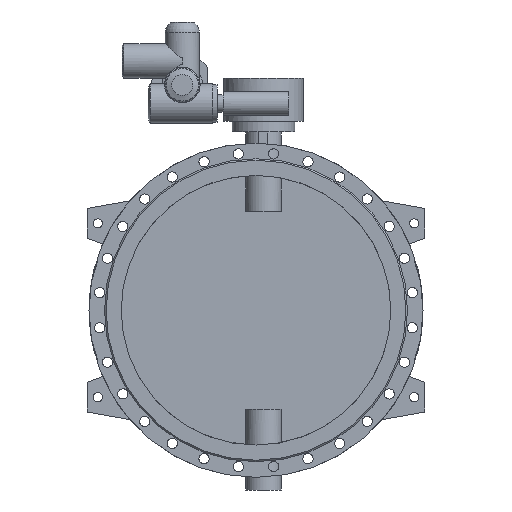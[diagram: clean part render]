
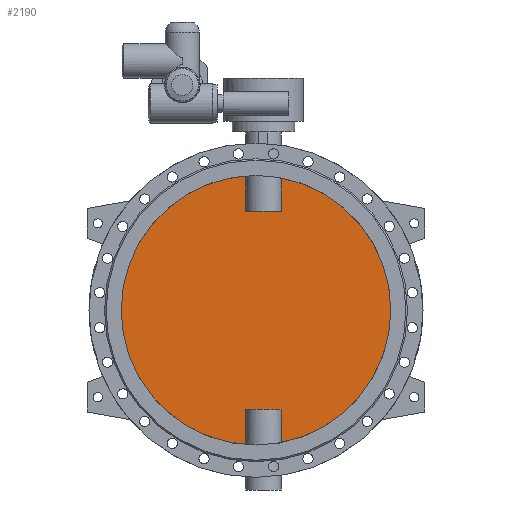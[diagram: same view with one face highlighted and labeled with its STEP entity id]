
A CAD part, front view. The second image highlights one B-rep face of the part: STEP entity #2190.
In plain terms, the highlighted planar face has unit normal (0, -1, 0).
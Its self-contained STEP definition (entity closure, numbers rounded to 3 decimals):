
#2190=ADVANCED_FACE('',(#4459),#4461,.F.);
#4459=FACE_BOUND('',#4460,.T.);
#4460=EDGE_LOOP('',(#5455,#5456,#5457,#5458,#5459,#5460,#5461,#5462));
#4461=PLANE('',#4462);
#4462=AXIS2_PLACEMENT_3D('',#4463,#4464,#4465);
#4463=CARTESIAN_POINT('',(0.,-5.,0.));
#4464=DIRECTION('',(0.,1.,0.));
#4465=DIRECTION('',(1.,0.,0.));
#5455=ORIENTED_EDGE('',*,*,#5954,.T.);
#5456=ORIENTED_EDGE('',*,*,#5959,.T.);
#5457=ORIENTED_EDGE('',*,*,#5960,.T.);
#5458=ORIENTED_EDGE('',*,*,#5961,.T.);
#5459=ORIENTED_EDGE('',*,*,#5956,.T.);
#5460=ORIENTED_EDGE('',*,*,#5962,.T.);
#5461=ORIENTED_EDGE('',*,*,#5963,.T.);
#5462=ORIENTED_EDGE('',*,*,#5964,.T.);
#5954=EDGE_CURVE('',#6835,#6836,#6837,.F.);
#5956=EDGE_CURVE('',#6840,#6838,#6841,.F.);
#5959=EDGE_CURVE('',#6836,#6845,#6846,.T.);
#5960=EDGE_CURVE('',#6845,#6847,#6848,.F.);
#5961=EDGE_CURVE('',#6847,#6840,#6849,.F.);
#5962=EDGE_CURVE('',#6838,#6850,#6851,.F.);
#5963=EDGE_CURVE('',#6850,#6852,#6853,.F.);
#5964=EDGE_CURVE('',#6852,#6835,#6854,.T.);
#6835=VERTEX_POINT('',#10965);
#6836=VERTEX_POINT('',#10966);
#6837=CIRCLE('',#10967,450.);
#6838=VERTEX_POINT('',#10971);
#6840=VERTEX_POINT('',#11061);
#6841=CIRCLE('',#11062,450.);
#6845=VERTEX_POINT('',#11177);
#6846=LINE('',#11178,#11179);
#6847=VERTEX_POINT('',#11181);
#6848=LINE('',#11182,#11183);
#6849=LINE('',#11185,#11186);
#6850=VERTEX_POINT('',#11188);
#6851=LINE('',#11189,#11190);
#6852=VERTEX_POINT('',#11192);
#6853=LINE('',#11193,#11194);
#6854=LINE('',#11196,#11197);
#10965=CARTESIAN_POINT('',(84.791,-5.,-441.939));
#10966=CARTESIAN_POINT('',(84.791,-5.,441.939));
#10967=AXIS2_PLACEMENT_3D('',#10968,#10969,#10970);
#10968=CARTESIAN_POINT('',(0.,-5.,0.));
#10969=DIRECTION('',(0.,1.,0.));
#10970=DIRECTION('',(0.188,0.,0.982));
#10971=CARTESIAN_POINT('',(-34.791,-5.,-448.653));
#11061=CARTESIAN_POINT('',(-34.791,-5.,448.653));
#11062=AXIS2_PLACEMENT_3D('',#11063,#11064,#11065);
#11063=CARTESIAN_POINT('',(0.,-5.,0.));
#11064=DIRECTION('',(0.,1.,0.));
#11065=DIRECTION('',(-0.077,0.,-0.997));
#11177=CARTESIAN_POINT('',(84.791,-5.,330.));
#11178=CARTESIAN_POINT('',(84.791,-5.,441.939));
#11179=VECTOR('',#11180,1.);
#11180=DIRECTION('',(0.,0.,-1.));
#11181=CARTESIAN_POINT('',(-34.791,-5.,330.));
#11182=CARTESIAN_POINT('',(-34.791,-5.,330.));
#11183=VECTOR('',#11184,1.);
#11184=DIRECTION('',(1.,0.,0.));
#11185=CARTESIAN_POINT('',(-34.791,-5.,448.653));
#11186=VECTOR('',#11187,1.);
#11187=DIRECTION('',(0.,0.,-1.));
#11188=CARTESIAN_POINT('',(-34.791,-5.,-330.));
#11189=CARTESIAN_POINT('',(-34.791,-5.,-330.));
#11190=VECTOR('',#11191,1.);
#11191=DIRECTION('',(0.,0.,-1.));
#11192=CARTESIAN_POINT('',(84.791,-5.,-330.));
#11193=CARTESIAN_POINT('',(84.791,-5.,-330.));
#11194=VECTOR('',#11195,1.);
#11195=DIRECTION('',(-1.,0.,0.));
#11196=CARTESIAN_POINT('',(84.791,-5.,-330.));
#11197=VECTOR('',#11198,1.);
#11198=DIRECTION('',(0.,0.,-1.));
